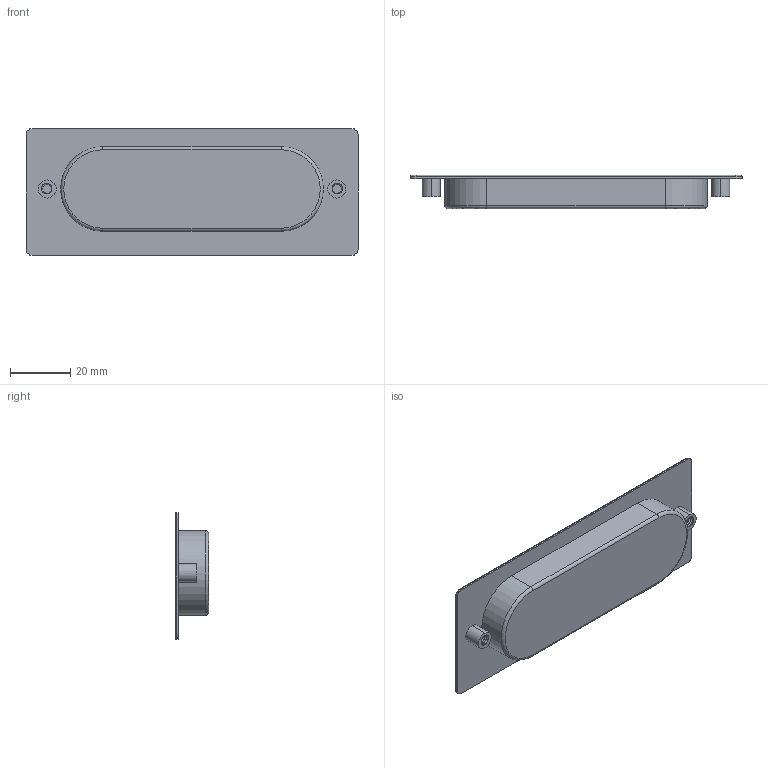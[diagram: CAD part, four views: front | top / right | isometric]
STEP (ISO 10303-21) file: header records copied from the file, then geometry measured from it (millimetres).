
FILE_DESCRIPTION (( 'STEP AP203' ), '1' );
FILE_NAME ('201-CE-HDI-ST.STEP', '2015-07-09T09:23:39', ( '' ), ( '' ), 'SwSTEP 2.0', 'SolidWorks 2013', '' );
FILE_SCHEMA (( 'CONFIG_CONTROL_DESIGN' ));
Length unit declared in the file: millimetre
Products named in the file (1): 201-CE-HDI-ST
Bounding box: 110 x 11 x 42 mm (x, y, z)
Volume: 7533.6 mm3; surface area: 15257.4 mm2
Topology: 1 solids, 1 shells, 85 faces, 212 edges, 136 vertices
Faces by surface type: cylinder 52, plane 21, torus 8, bspline 4
Entity records: 4175 total; most frequent: CARTESIAN_POINT 2226, ORIENTED_EDGE 424, DIRECTION 368, EDGE_CURVE 212, AXIS2_PLACEMENT_3D 140, VERTEX_POINT 136, EDGE_LOOP 92, LINE 88
